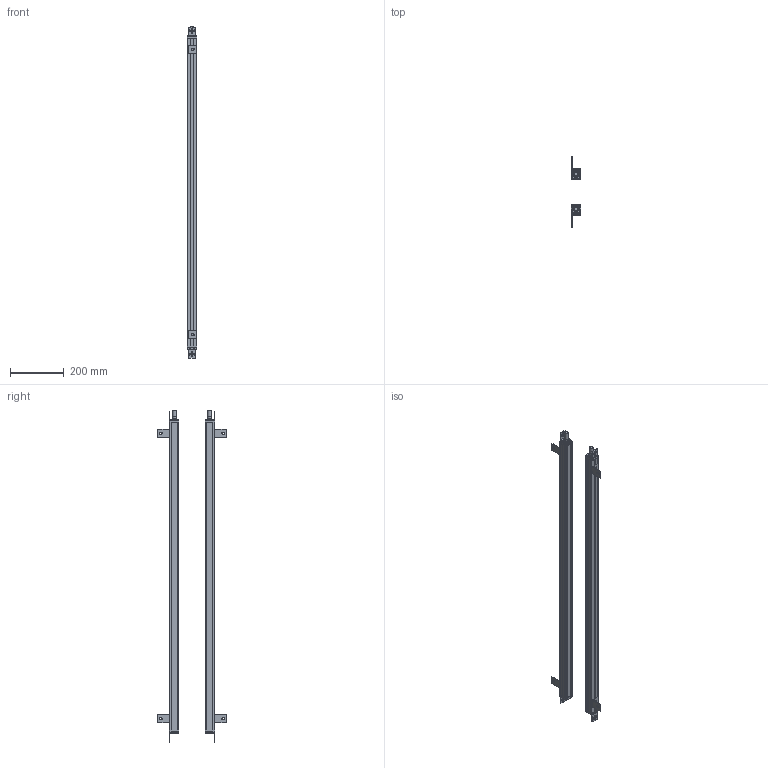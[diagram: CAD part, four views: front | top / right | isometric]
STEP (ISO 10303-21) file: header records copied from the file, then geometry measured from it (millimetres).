
FILE_DESCRIPTION(/* description */ (''),/* implementation_level */ '2;1');
FILE_NAME(/* name */ '5620_35X35_stp.stp',/* time_stamp */ '2023-09-18T16:30:55+08:00',/* author */ (''),/* organization */ (''),/* preprocessor_version */ 'ST-DEVELOPER v16.7',/* originating_system */ 'SIEMENS PLM Software NX 12.0',/* authorisation */ '');
FILE_SCHEMA (('AP203_CONFIGURATION_CONTROLLED_3D_DESIGN_OF_MECHANICAL_PARTS_AND_ASSEMBLIES_MIM_LF { 1 0 10303 403 2 1 2}'));
Length unit declared in the file: millimetre
Products named in the file (1): 5620_35X35_stp_stp
Bounding box: 35.41 x 258.01 x 1231.6 mm (x, y, z)
Volume: 1132092.8 mm3; surface area: 851484.7 mm2
Topology: 28 solids, 28 shells, 1182 faces, 3360 edges, 2260 vertices
Faces by surface type: plane 658, cylinder 464, cone 60
Full cylindrical faces by diameter (mm): 3.2 x8, 6 x24, 13 x2, 14.4 x2, 15 x2
Entity records: 39055 total; most frequent: DIRECTION 6832, CARTESIAN_POINT 6745, ORIENTED_EDGE 6612, EDGE_CURVE 3306, AXIS2_PLACEMENT_3D 2347, VERTEX_POINT 2244, LINE 2138, VECTOR 2138
